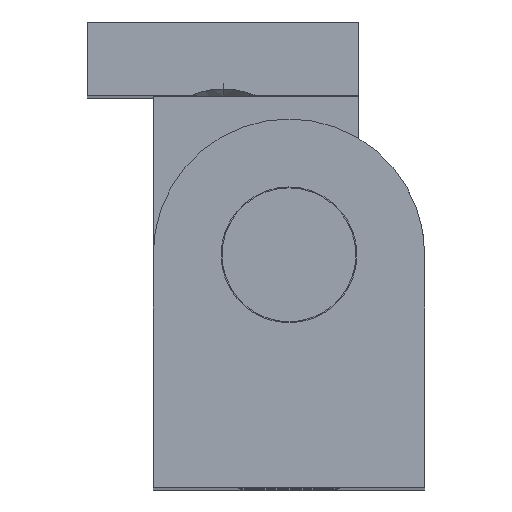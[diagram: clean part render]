
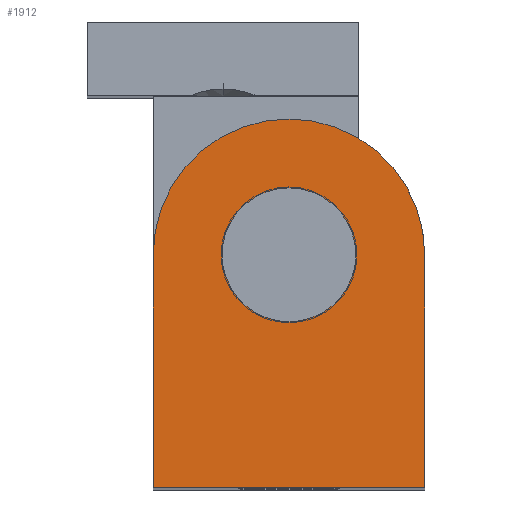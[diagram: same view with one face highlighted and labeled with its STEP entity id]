
A CAD part, top view. The second image highlights one B-rep face of the part: STEP entity #1912.
In plain terms, the highlighted planar face has unit normal (0, 0, 1).
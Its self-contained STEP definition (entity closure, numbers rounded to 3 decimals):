
#36 = EDGE_CURVE ( 'NONE', #2623, #993, #2611, .T. ) ;
#58 = EDGE_LOOP ( 'NONE', ( #1705, #1326 ) ) ;
#129 = CARTESIAN_POINT ( 'NONE',  ( 0., 0., 70. ) ) ;
#138 = DIRECTION ( 'NONE',  ( 1., 0., 0. ) ) ;
#210 = EDGE_CURVE ( 'NONE', #993, #1841, #595, .T. ) ;
#260 = CIRCLE ( 'NONE', #464, 3.45 ) ;
#324 = DIRECTION ( 'NONE',  ( 1., 0., 0. ) ) ;
#373 = CARTESIAN_POINT ( 'NONE',  ( 0., 0., 70. ) ) ;
#417 = VERTEX_POINT ( 'NONE', #1695 ) ;
#464 = AXIS2_PLACEMENT_3D ( 'NONE', #736, #2616, #324 ) ;
#588 = CARTESIAN_POINT ( 'NONE',  ( -7., -12., 70. ) ) ;
#595 = CIRCLE ( 'NONE', #1290, 7. ) ;
#736 = CARTESIAN_POINT ( 'NONE',  ( 0., 0., 70. ) ) ;
#834 = VECTOR ( 'NONE', #2388, 1000. ) ;
#975 = VERTEX_POINT ( 'NONE', #1501 ) ;
#993 = VERTEX_POINT ( 'NONE', #1463 ) ;
#1061 = DIRECTION ( 'NONE',  ( 0., 0., 1. ) ) ;
#1147 = CARTESIAN_POINT ( 'NONE',  ( 7., 0., 70. ) ) ;
#1178 = FACE_BOUND ( 'NONE', #58, .T. ) ;
#1237 = LINE ( 'NONE', #1391, #1556 ) ;
#1252 = CARTESIAN_POINT ( 'NONE',  ( 7., -12., 70. ) ) ;
#1285 = EDGE_CURVE ( 'NONE', #1841, #2069, #1237, .T. ) ;
#1290 = AXIS2_PLACEMENT_3D ( 'NONE', #373, #1061, #2078 ) ;
#1326 = ORIENTED_EDGE ( 'NONE', *, *, #1990, .F. ) ;
#1391 = CARTESIAN_POINT ( 'NONE',  ( -7., 0., 70. ) ) ;
#1426 = CIRCLE ( 'NONE', #2614, 3.45 ) ;
#1463 = CARTESIAN_POINT ( 'NONE',  ( 7., 0., 70. ) ) ;
#1471 = LINE ( 'NONE', #2006, #2315 ) ;
#1501 = CARTESIAN_POINT ( 'NONE',  ( 3.45, 0., 70. ) ) ;
#1551 = PLANE ( 'NONE',  #1742 ) ;
#1556 = VECTOR ( 'NONE', #1876, 1000. ) ;
#1624 = ORIENTED_EDGE ( 'NONE', *, *, #1285, .T. ) ;
#1695 = CARTESIAN_POINT ( 'NONE',  ( -3.45, 0., 70. ) ) ;
#1705 = ORIENTED_EDGE ( 'NONE', *, *, #2492, .F. ) ;
#1742 = AXIS2_PLACEMENT_3D ( 'NONE', #129, #1803, #1988 ) ;
#1755 = EDGE_CURVE ( 'NONE', #2069, #2623, #1471, .T. ) ;
#1803 = DIRECTION ( 'NONE',  ( 0., 0., 1. ) ) ;
#1841 = VERTEX_POINT ( 'NONE', #2107 ) ;
#1876 = DIRECTION ( 'NONE',  ( 0., -1., 0. ) ) ;
#1906 = FACE_OUTER_BOUND ( 'NONE', #2082, .T. ) ;
#1912 = ADVANCED_FACE ( 'NONE', ( #1906, #1178 ), #1551, .T. ) ;
#1946 = ORIENTED_EDGE ( 'NONE', *, *, #36, .T. ) ;
#1973 = CARTESIAN_POINT ( 'NONE',  ( 0., 0., 70. ) ) ;
#1988 = DIRECTION ( 'NONE',  ( 1., 0., 0. ) ) ;
#1990 = EDGE_CURVE ( 'NONE', #975, #417, #260, .T. ) ;
#2006 = CARTESIAN_POINT ( 'NONE',  ( -7., -12., 70. ) ) ;
#2069 = VERTEX_POINT ( 'NONE', #588 ) ;
#2078 = DIRECTION ( 'NONE',  ( 1., 0., 0. ) ) ;
#2082 = EDGE_LOOP ( 'NONE', ( #2301, #1624, #2286, #1946 ) ) ;
#2107 = CARTESIAN_POINT ( 'NONE',  ( -7., 0., 70. ) ) ;
#2181 = DIRECTION ( 'NONE',  ( 0., 0., 1. ) ) ;
#2286 = ORIENTED_EDGE ( 'NONE', *, *, #1755, .T. ) ;
#2301 = ORIENTED_EDGE ( 'NONE', *, *, #210, .T. ) ;
#2315 = VECTOR ( 'NONE', #2655, 1000. ) ;
#2388 = DIRECTION ( 'NONE',  ( 0., 1., 0. ) ) ;
#2492 = EDGE_CURVE ( 'NONE', #417, #975, #1426, .T. ) ;
#2611 = LINE ( 'NONE', #1147, #834 ) ;
#2614 = AXIS2_PLACEMENT_3D ( 'NONE', #1973, #2181, #138 ) ;
#2616 = DIRECTION ( 'NONE',  ( 0., 0., 1. ) ) ;
#2623 = VERTEX_POINT ( 'NONE', #1252 ) ;
#2655 = DIRECTION ( 'NONE',  ( 1., 0., 0. ) ) ;
